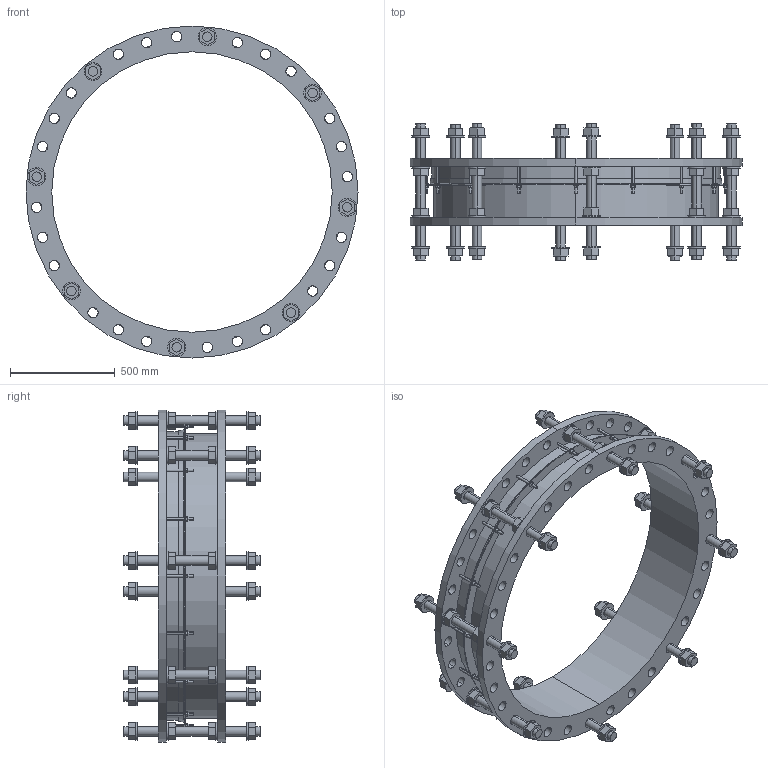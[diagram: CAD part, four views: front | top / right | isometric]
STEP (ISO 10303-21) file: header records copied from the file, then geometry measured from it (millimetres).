
FILE_DESCRIPTION((''),'2;1');
FILE_NAME('A2E_DJ_BIM_ASM','2020-11-30T',('mfairey'),('Glynwed Pipe Systems'),'CREO PARAMETRIC BY PTC INC, 2016130','CREO PARAMETRIC BY PTC INC, 2016130','');
FILE_SCHEMA(('CONFIG_CONTROL_DESIGN'));
Length unit declared in the file: millimetre
Products named in the file (3): DJ_AF0; TIE_BOLT_BIM; A2E_DJ_BIM_ASM
Assembly tree (9 placements, depth 2):
  A2E_DJ_BIM_ASM
    DJ_AF0
    TIE_BOLT_BIM  x8
Bounding box: 1585 x 650 x 1585 mm (x, y, z)
Volume: 66068049.1 mm3; surface area: 6624845.3 mm2
Topology: 9 solids, 9 shells, 868 faces, 2126 edges, 1406 vertices
Faces by surface type: plane 470, cylinder 394, cone 4
Entity records: 16444 total; most frequent: CARTESIAN_POINT 3792, DIRECTION 2742, ORIENTED_EDGE 2488, EDGE_CURVE 1244, AXIS2_PLACEMENT_3D 1054, VERTEX_POINT 818, EDGE_LOOP 684, VECTOR 634
